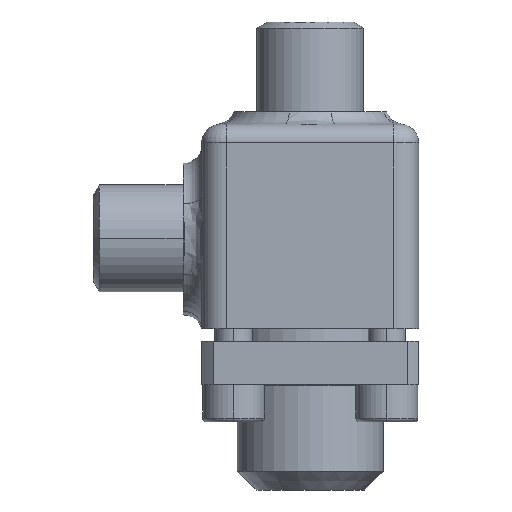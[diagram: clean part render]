
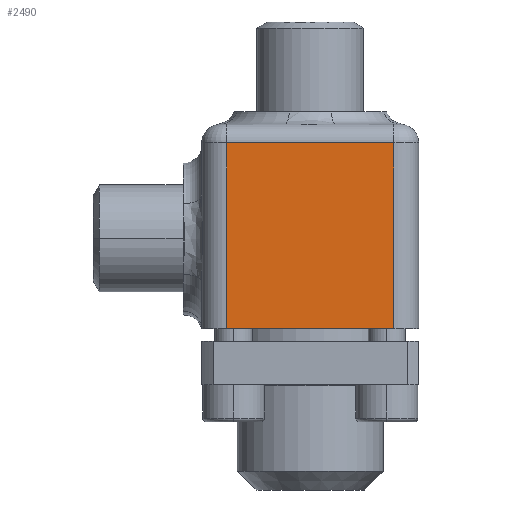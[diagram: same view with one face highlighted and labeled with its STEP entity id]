
A CAD part, front view. The second image highlights one B-rep face of the part: STEP entity #2490.
In plain terms, the highlighted planar face has unit normal (0, -1, 0).
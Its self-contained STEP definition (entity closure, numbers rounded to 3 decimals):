
#398 = CARTESIAN_POINT ( 'NONE',  ( -13.5, -17.5, 30. ) ) ;
#407 = CARTESIAN_POINT ( 'NONE',  ( 13.5, -17.5, 0. ) ) ;
#454 = LINE ( 'NONE', #455, #456 ) ;
#455 = CARTESIAN_POINT ( 'NONE',  ( 13.5, -17.5, 33. ) ) ;
#456 = VECTOR ( 'NONE', #457, 1000. ) ;
#457 = DIRECTION ( 'NONE',  ( 0., 0., 1. ) ) ;
#521 = LINE ( 'NONE', #522, #523 ) ;
#522 = CARTESIAN_POINT ( 'NONE',  ( -17.5, -17.5, 30. ) ) ;
#523 = VECTOR ( 'NONE', #525, 1000. ) ;
#525 = DIRECTION ( 'NONE',  ( -1., 0., 0. ) ) ;
#1084 = CARTESIAN_POINT ( 'NONE',  ( -13.5, -17.5, 0. ) ) ;
#1183 = LINE ( 'NONE', #1187, #1188 ) ;
#1187 = CARTESIAN_POINT ( 'NONE',  ( -13.5, -17.5, 33. ) ) ;
#1188 = VECTOR ( 'NONE', #1189, 1000. ) ;
#1189 = DIRECTION ( 'NONE',  ( 0., 0., -1. ) ) ;
#1507 = CARTESIAN_POINT ( 'NONE',  ( 13.5, -17.5, 30. ) ) ;
#1909 = EDGE_CURVE ( 'NONE', #1953, #6952, #6737, .T. ) ;
#1918 = ORIENTED_EDGE ( 'NONE', *, *, #1909, .T. ) ;
#1953 = VERTEX_POINT ( 'NONE', #1084 ) ;
#1960 = EDGE_CURVE ( 'NONE', #6935, #1953, #1183, .T. ) ;
#1999 = VERTEX_POINT ( 'NONE', #1507 ) ;
#2438 = ORIENTED_EDGE ( 'NONE', *, *, #7006, .T. ) ;
#2470 = ORIENTED_EDGE ( 'NONE', *, *, #1960, .T. ) ;
#2475 = EDGE_LOOP ( 'NONE', ( #2438, #5472, #2470, #1918 ) ) ;
#2490 = ADVANCED_FACE ( 'NONE', ( #6383 ), #6384, .F. ) ;
#5472 = ORIENTED_EDGE ( 'NONE', *, *, #7075, .T. ) ;
#6383 = FACE_OUTER_BOUND ( 'NONE', #2475, .T. ) ;
#6384 = PLANE ( 'NONE',  #6385 ) ;
#6385 = AXIS2_PLACEMENT_3D ( 'NONE', #6386, #6387, #6388 ) ;
#6386 = CARTESIAN_POINT ( 'NONE',  ( -17.5, -17.5, 33. ) ) ;
#6387 = DIRECTION ( 'NONE',  ( 0., 1., 0. ) ) ;
#6388 = DIRECTION ( 'NONE',  ( -1., 0., 0. ) ) ;
#6737 = LINE ( 'NONE', #6738, #6739 ) ;
#6738 = CARTESIAN_POINT ( 'NONE',  ( -17.5, -17.5, 0. ) ) ;
#6739 = VECTOR ( 'NONE', #6740, 1000. ) ;
#6740 = DIRECTION ( 'NONE',  ( 1., 0., 0. ) ) ;
#6935 = VERTEX_POINT ( 'NONE', #398 ) ;
#6952 = VERTEX_POINT ( 'NONE', #407 ) ;
#7006 = EDGE_CURVE ( 'NONE', #6952, #1999, #454, .T. ) ;
#7075 = EDGE_CURVE ( 'NONE', #1999, #6935, #521, .T. ) ;
